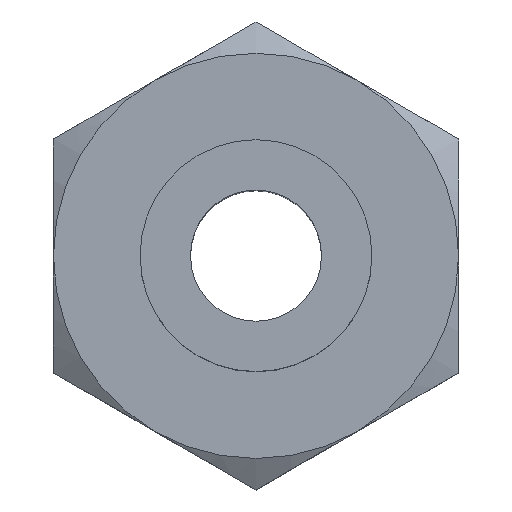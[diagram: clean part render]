
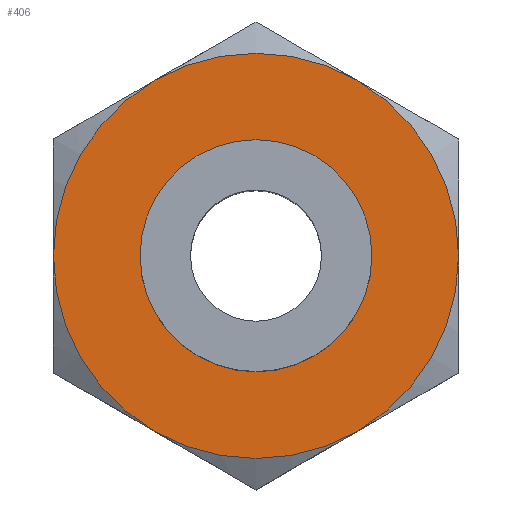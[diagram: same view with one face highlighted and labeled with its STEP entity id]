
A CAD part, top view. The second image highlights one B-rep face of the part: STEP entity #406.
In plain terms, the highlighted planar face has unit normal (0, 0, 1).
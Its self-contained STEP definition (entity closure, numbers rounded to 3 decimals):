
#15=FACE_BOUND('',#106,.T.);
#19=PLANE('',#470);
#79=FACE_OUTER_BOUND('',#105,.T.);
#105=EDGE_LOOP('',(#305,#306,#307,#308,#309,#310));
#106=EDGE_LOOP('',(#311,#312));
#149=CIRCLE('',#459,8.5);
#150=CIRCLE('',#461,8.5);
#151=CIRCLE('',#463,8.5);
#152=CIRCLE('',#465,8.5);
#153=CIRCLE('',#467,8.5);
#154=CIRCLE('',#469,8.5);
#155=CIRCLE('',#471,4.864);
#156=CIRCLE('',#472,4.864);
#179=VERTEX_POINT('',#673);
#180=VERTEX_POINT('',#677);
#181=VERTEX_POINT('',#683);
#183=VERTEX_POINT('',#693);
#186=VERTEX_POINT('',#704);
#187=VERTEX_POINT('',#713);
#190=VERTEX_POINT('',#732);
#191=VERTEX_POINT('',#733);
#223=EDGE_CURVE('',#180,#179,#149,.T.);
#225=EDGE_CURVE('',#181,#180,#150,.T.);
#228=EDGE_CURVE('',#183,#181,#151,.T.);
#232=EDGE_CURVE('',#179,#186,#152,.T.);
#234=EDGE_CURVE('',#187,#183,#153,.T.);
#238=EDGE_CURVE('',#186,#187,#154,.T.);
#239=EDGE_CURVE('',#190,#191,#155,.T.);
#240=EDGE_CURVE('',#191,#190,#156,.T.);
#305=ORIENTED_EDGE('',*,*,#232,.F.);
#306=ORIENTED_EDGE('',*,*,#223,.F.);
#307=ORIENTED_EDGE('',*,*,#225,.F.);
#308=ORIENTED_EDGE('',*,*,#228,.F.);
#309=ORIENTED_EDGE('',*,*,#234,.F.);
#310=ORIENTED_EDGE('',*,*,#238,.F.);
#311=ORIENTED_EDGE('',*,*,#239,.T.);
#312=ORIENTED_EDGE('',*,*,#240,.T.);
#406=ADVANCED_FACE('',(#79,#15),#19,.F.);
#459=AXIS2_PLACEMENT_3D('',#681,#534,#535);
#461=AXIS2_PLACEMENT_3D('',#688,#538,#539);
#463=AXIS2_PLACEMENT_3D('',#698,#542,#543);
#465=AXIS2_PLACEMENT_3D('',#711,#546,#547);
#467=AXIS2_PLACEMENT_3D('',#718,#550,#551);
#469=AXIS2_PLACEMENT_3D('',#730,#554,#555);
#470=AXIS2_PLACEMENT_3D('',#731,#556,#557);
#471=AXIS2_PLACEMENT_3D('',#734,#558,#559);
#472=AXIS2_PLACEMENT_3D('',#735,#560,#561);
#534=DIRECTION('center_axis',(0.,0.,-1.));
#535=DIRECTION('ref_axis',(1.,0.,0.));
#538=DIRECTION('center_axis',(0.,0.,-1.));
#539=DIRECTION('ref_axis',(1.,0.,0.));
#542=DIRECTION('center_axis',(0.,0.,-1.));
#543=DIRECTION('ref_axis',(1.,0.,0.));
#546=DIRECTION('center_axis',(0.,0.,-1.));
#547=DIRECTION('ref_axis',(1.,0.,0.));
#550=DIRECTION('center_axis',(0.,0.,-1.));
#551=DIRECTION('ref_axis',(1.,0.,0.));
#554=DIRECTION('center_axis',(0.,0.,-1.));
#555=DIRECTION('ref_axis',(1.,0.,0.));
#556=DIRECTION('center_axis',(0.,0.,-1.));
#557=DIRECTION('ref_axis',(-1.,0.,0.));
#558=DIRECTION('center_axis',(0.,0.,-1.));
#559=DIRECTION('ref_axis',(1.,0.,0.));
#560=DIRECTION('center_axis',(0.,0.,-1.));
#561=DIRECTION('ref_axis',(1.,0.,0.));
#673=CARTESIAN_POINT('',(4.25,-7.361,13.));
#677=CARTESIAN_POINT('',(8.5,0.,13.));
#681=CARTESIAN_POINT('Origin',(0.,0.,13.));
#683=CARTESIAN_POINT('',(4.25,7.361,13.));
#688=CARTESIAN_POINT('Origin',(0.,0.,13.));
#693=CARTESIAN_POINT('',(-4.25,7.361,13.));
#698=CARTESIAN_POINT('Origin',(0.,0.,13.));
#704=CARTESIAN_POINT('',(-4.25,-7.361,13.));
#711=CARTESIAN_POINT('Origin',(0.,0.,13.));
#713=CARTESIAN_POINT('',(-8.5,0.,13.));
#718=CARTESIAN_POINT('Origin',(0.,0.,13.));
#730=CARTESIAN_POINT('Origin',(0.,0.,13.));
#731=CARTESIAN_POINT('Origin',(0.,-4.864,13.));
#732=CARTESIAN_POINT('',(0.,-4.864,13.));
#733=CARTESIAN_POINT('',(0.,4.864,13.));
#734=CARTESIAN_POINT('Origin',(0.,0.,13.));
#735=CARTESIAN_POINT('Origin',(0.,0.,13.));
